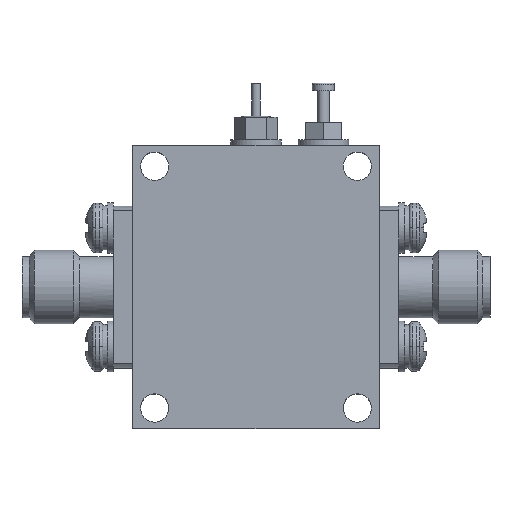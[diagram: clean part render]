
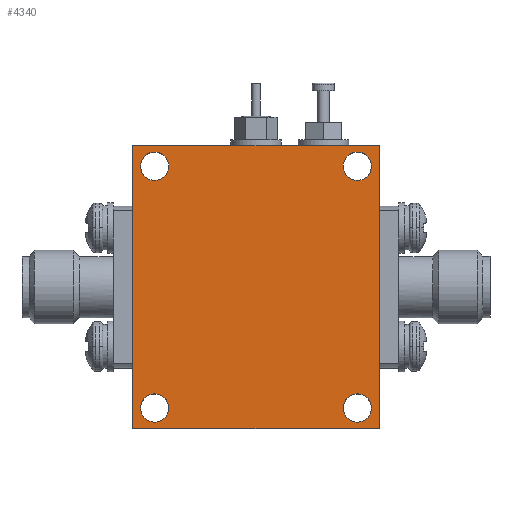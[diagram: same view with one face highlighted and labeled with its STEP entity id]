
A CAD part, top view. The second image highlights one B-rep face of the part: STEP entity #4340.
In plain terms, the highlighted planar face has unit normal (0, 0, 1).
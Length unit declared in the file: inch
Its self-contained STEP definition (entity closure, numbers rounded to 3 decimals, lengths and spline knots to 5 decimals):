
#324=LINE('',#7098,#594);
#327=LINE('',#7108,#597);
#333=LINE('',#7143,#603);
#335=LINE('',#7146,#605);
#594=VECTOR('',#5593,1.);
#597=VECTOR('',#5602,1.);
#603=VECTOR('',#5638,1.);
#605=VECTOR('',#5642,1.);
#829=FACE_BOUND('',#1247,.T.);
#830=FACE_BOUND('',#1248,.T.);
#831=FACE_BOUND('',#1249,.T.);
#832=FACE_BOUND('',#1250,.T.);
#947=FACE_OUTER_BOUND('',#1246,.T.);
#1246=EDGE_LOOP('',(#3209,#3210,#3211,#3212));
#1247=EDGE_LOOP('',(#3213));
#1248=EDGE_LOOP('',(#3214));
#1249=EDGE_LOOP('',(#3215));
#1250=EDGE_LOOP('',(#3216));
#1559=CIRCLE('',#4714,0.048);
#1561=CIRCLE('',#4717,0.048);
#1563=CIRCLE('',#4720,0.048);
#1565=CIRCLE('',#4723,0.048);
#1871=VERTEX_POINT('',#7095);
#1872=VERTEX_POINT('',#7097);
#1876=VERTEX_POINT('',#7107);
#1882=VERTEX_POINT('',#7121);
#1884=VERTEX_POINT('',#7126);
#1886=VERTEX_POINT('',#7131);
#1888=VERTEX_POINT('',#7136);
#1890=VERTEX_POINT('',#7141);
#2365=EDGE_CURVE('',#1871,#1872,#324,.T.);
#2370=EDGE_CURVE('',#1872,#1876,#327,.T.);
#2377=EDGE_CURVE('',#1882,#1882,#1559,.T.);
#2379=EDGE_CURVE('',#1884,#1884,#1561,.T.);
#2381=EDGE_CURVE('',#1886,#1886,#1563,.T.);
#2383=EDGE_CURVE('',#1888,#1888,#1565,.T.);
#2386=EDGE_CURVE('',#1890,#1871,#333,.T.);
#2388=EDGE_CURVE('',#1876,#1890,#335,.T.);
#3209=ORIENTED_EDGE('',*,*,#2388,.F.);
#3210=ORIENTED_EDGE('',*,*,#2370,.F.);
#3211=ORIENTED_EDGE('',*,*,#2365,.F.);
#3212=ORIENTED_EDGE('',*,*,#2386,.F.);
#3213=ORIENTED_EDGE('',*,*,#2377,.F.);
#3214=ORIENTED_EDGE('',*,*,#2379,.F.);
#3215=ORIENTED_EDGE('',*,*,#2381,.F.);
#3216=ORIENTED_EDGE('',*,*,#2383,.F.);
#4171=PLANE('',#4727);
#4340=ADVANCED_FACE('',(#947,#829,#830,#831,#832),#4171,.F.);
#4714=AXIS2_PLACEMENT_3D('',#7122,#5614,#5615);
#4717=AXIS2_PLACEMENT_3D('',#7127,#5620,#5621);
#4720=AXIS2_PLACEMENT_3D('',#7132,#5626,#5627);
#4723=AXIS2_PLACEMENT_3D('',#7137,#5632,#5633);
#4727=AXIS2_PLACEMENT_3D('',#7148,#5645,#5646);
#5593=DIRECTION('',(1.,0.,0.));
#5602=DIRECTION('',(0.,-1.,0.));
#5614=DIRECTION('center_axis',(0.,0.,
1.));
#5615=DIRECTION('ref_axis',(0.,-1.,0.));
#5620=DIRECTION('center_axis',(0.,0.,
1.));
#5621=DIRECTION('ref_axis',(0.,-1.,0.));
#5626=DIRECTION('center_axis',(0.,0.,
1.));
#5627=DIRECTION('ref_axis',(0.,-1.,0.));
#5632=DIRECTION('center_axis',(0.,0.,
1.));
#5633=DIRECTION('ref_axis',(-1.,0.,0.));
#5638=DIRECTION('',(0.,1.,0.));
#5642=DIRECTION('',(-1.,0.,0.));
#5645=DIRECTION('center_axis',(0.,0.,
-1.));
#5646=DIRECTION('ref_axis',(1.,0.,0.));
#7095=CARTESIAN_POINT('',(0.,0.96,0.365));
#7097=CARTESIAN_POINT('',(0.8375,0.96,0.365));
#7098=CARTESIAN_POINT('',(0.8375,0.96,0.365));
#7107=CARTESIAN_POINT('',(0.8375,0.,0.365));
#7108=CARTESIAN_POINT('',(0.8375,0.,0.365));
#7121=CARTESIAN_POINT('',(0.075,0.022,0.365));
#7122=CARTESIAN_POINT('Origin',(0.075,0.07,0.365));
#7126=CARTESIAN_POINT('',(0.7625,0.022,0.365));
#7127=CARTESIAN_POINT('Origin',(0.7625,0.07,0.365));
#7131=CARTESIAN_POINT('',(0.7625,0.842,0.365));
#7132=CARTESIAN_POINT('Origin',(0.7625,0.89,0.365));
#7136=CARTESIAN_POINT('',(0.027,0.89,0.365));
#7137=CARTESIAN_POINT('Origin',(0.075,0.89,0.365));
#7141=CARTESIAN_POINT('',(0.,0.,0.365));
#7143=CARTESIAN_POINT('',(0.,0.96,0.365));
#7146=CARTESIAN_POINT('',(0.,0.,0.365));
#7148=CARTESIAN_POINT('Origin',(0.41875,0.48,0.365));
